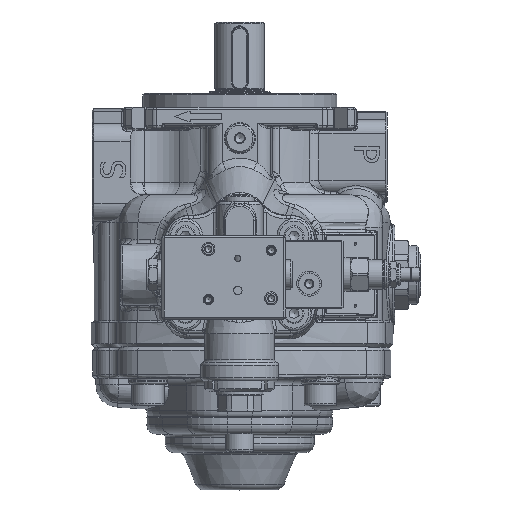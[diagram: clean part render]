
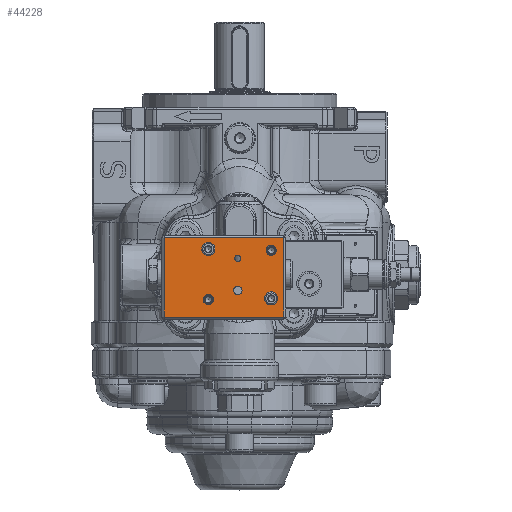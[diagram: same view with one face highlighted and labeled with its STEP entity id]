
A CAD part, top view. The second image highlights one B-rep face of the part: STEP entity #44228.
In plain terms, the highlighted planar face has unit normal (0, 0, 1).
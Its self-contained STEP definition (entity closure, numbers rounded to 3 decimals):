
#1348=FACE_BOUND('',#7502,.T.);
#1349=FACE_BOUND('',#7503,.T.);
#1350=FACE_BOUND('',#7504,.T.);
#1351=FACE_BOUND('',#7505,.T.);
#1352=FACE_BOUND('',#7506,.T.);
#1353=FACE_BOUND('',#7507,.T.);
#2227=PLANE('',#48621);
#4865=FACE_OUTER_BOUND('',#7501,.T.);
#7501=EDGE_LOOP('',(#38152,#38153,#38154,#38155));
#7502=EDGE_LOOP('',(#38156));
#7503=EDGE_LOOP('',(#38157));
#7504=EDGE_LOOP('',(#38158));
#7505=EDGE_LOOP('',(#38159));
#7506=EDGE_LOOP('',(#38160));
#7507=EDGE_LOOP('',(#38161));
#7707=CIRCLE('',#44429,4.25);
#9856=CIRCLE('',#48476,3.25);
#9859=CIRCLE('',#48481,3.25);
#9968=CIRCLE('',#48608,2.);
#9969=CIRCLE('',#48610,2.75);
#9972=CIRCLE('',#48622,4.25);
#13402=LINE('',#92885,#15901);
#13403=LINE('',#92887,#15902);
#13404=LINE('',#92889,#15903);
#13405=LINE('',#92890,#15904);
#15901=VECTOR('',#59660,10.);
#15902=VECTOR('',#59661,10.);
#15903=VECTOR('',#59662,10.);
#15904=VECTOR('',#59663,10.);
#16084=VERTEX_POINT('',#60525);
#19681=VERTEX_POINT('',#92302);
#19684=VERTEX_POINT('',#92312);
#19857=VERTEX_POINT('',#92818);
#19858=VERTEX_POINT('',#92822);
#19882=VERTEX_POINT('',#92883);
#19883=VERTEX_POINT('',#92884);
#19884=VERTEX_POINT('',#92886);
#19885=VERTEX_POINT('',#92888);
#19886=VERTEX_POINT('',#92891);
#20059=EDGE_CURVE('',#16084,#16084,#7707,.T.);
#25789=EDGE_CURVE('',#19681,#19681,#9856,.T.);
#25794=EDGE_CURVE('',#19684,#19684,#9859,.T.);
#25997=EDGE_CURVE('',#19857,#19857,#9968,.T.);
#25999=EDGE_CURVE('',#19858,#19858,#9969,.T.);
#26026=EDGE_CURVE('',#19882,#19883,#13402,.T.);
#26027=EDGE_CURVE('',#19884,#19882,#13403,.T.);
#26028=EDGE_CURVE('',#19885,#19884,#13404,.T.);
#26029=EDGE_CURVE('',#19883,#19885,#13405,.T.);
#26030=EDGE_CURVE('',#19886,#19886,#9972,.T.);
#38152=ORIENTED_EDGE('',*,*,#26026,.F.);
#38153=ORIENTED_EDGE('',*,*,#26027,.F.);
#38154=ORIENTED_EDGE('',*,*,#26028,.F.);
#38155=ORIENTED_EDGE('',*,*,#26029,.F.);
#38156=ORIENTED_EDGE('',*,*,#26030,.T.);
#38157=ORIENTED_EDGE('',*,*,#20059,.T.);
#38158=ORIENTED_EDGE('',*,*,#25794,.F.);
#38159=ORIENTED_EDGE('',*,*,#25789,.F.);
#38160=ORIENTED_EDGE('',*,*,#25997,.T.);
#38161=ORIENTED_EDGE('',*,*,#25999,.T.);
#44228=ADVANCED_FACE('',(#4865,#1348,#1349,#1350,#1351,#1352,#1353),#2227,
 .T.);
#44429=AXIS2_PLACEMENT_3D('',#60527,#48940,#48941);
#48476=AXIS2_PLACEMENT_3D('',#92303,#59255,#59256);
#48481=AXIS2_PLACEMENT_3D('',#92313,#59267,#59268);
#48608=AXIS2_PLACEMENT_3D('',#92820,#59607,#59608);
#48610=AXIS2_PLACEMENT_3D('',#92824,#59612,#59613);
#48621=AXIS2_PLACEMENT_3D('',#92882,#59658,#59659);
#48622=AXIS2_PLACEMENT_3D('',#92892,#59664,#59665);
#48940=DIRECTION('center_axis',(0.,0.,
-1.));
#48941=DIRECTION('ref_axis',(1.,0.,0.));
#59255=DIRECTION('center_axis',(0.,0.,
1.));
#59256=DIRECTION('ref_axis',(0.,-1.,0.));
#59267=DIRECTION('center_axis',(0.,0.,
1.));
#59268=DIRECTION('ref_axis',(0.,-1.,0.));
#59607=DIRECTION('center_axis',(0.,0.,
-1.));
#59608=DIRECTION('ref_axis',(0.,-1.,0.));
#59612=DIRECTION('center_axis',(0.,0.,
-1.));
#59613=DIRECTION('ref_axis',(0.,-1.,0.));
#59658=DIRECTION('center_axis',(0.,0.,
1.));
#59659=DIRECTION('ref_axis',(0.,1.,0.));
#59660=DIRECTION('',(-1.,0.,0.));
#59661=DIRECTION('',(0.,-1.,0.));
#59662=DIRECTION('',(1.,0.,0.));
#59663=DIRECTION('',(0.,1.,0.));
#59664=DIRECTION('center_axis',(0.,0.,
-1.));
#59665=DIRECTION('ref_axis',(1.,0.,0.));
#60525=CARTESIAN_POINT('',(12.458,-51.722,236.023));
#60527=CARTESIAN_POINT('Origin',(16.708,-51.722,236.023));
#92302=CARTESIAN_POINT('',(-23.792,-49.222,236.023));
#92303=CARTESIAN_POINT('Origin',(-23.792,-52.472,236.023));
#92312=CARTESIAN_POINT('',(16.708,-17.472,236.023));
#92313=CARTESIAN_POINT('Origin',(16.708,-20.722,236.023));
#92818=CARTESIAN_POINT('',(-4.792,-23.922,236.023));
#92820=CARTESIAN_POINT('Origin',(-4.792,-25.922,236.023));
#92822=CARTESIAN_POINT('',(-4.792,-43.772,236.023));
#92824=CARTESIAN_POINT('Origin',(-4.792,-46.522,236.023));
#92882=CARTESIAN_POINT('Origin',(-13.792,-38.222,236.023));
#92883=CARTESIAN_POINT('',(24.708,-63.722,236.023));
#92884=CARTESIAN_POINT('',(-52.292,-63.722,236.023));
#92885=CARTESIAN_POINT('',(6.208,-63.722,236.023));
#92886=CARTESIAN_POINT('',(24.708,-12.722,236.023));
#92887=CARTESIAN_POINT('',(24.708,-24.722,236.023));
#92888=CARTESIAN_POINT('',(-52.292,-12.722,236.023));
#92889=CARTESIAN_POINT('',(-33.792,-12.722,236.023));
#92890=CARTESIAN_POINT('',(-52.292,-51.722,236.023));
#92891=CARTESIAN_POINT('',(-28.042,-19.972,236.023));
#92892=CARTESIAN_POINT('Origin',(-23.792,-19.972,236.023));
